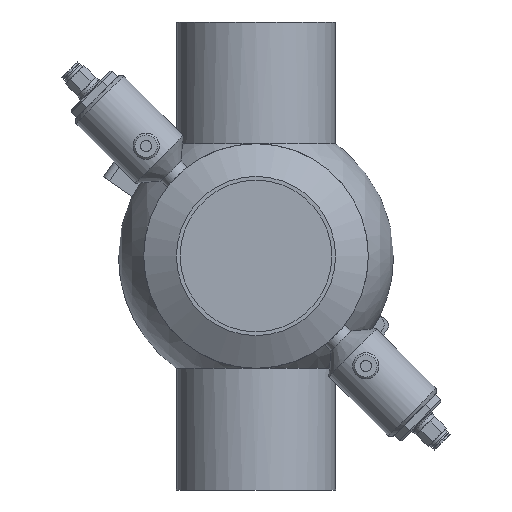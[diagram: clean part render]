
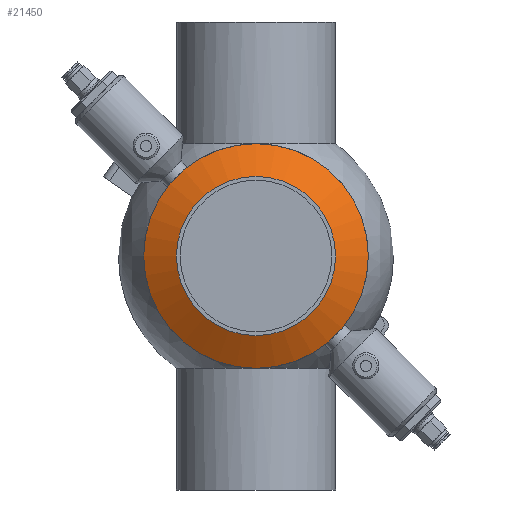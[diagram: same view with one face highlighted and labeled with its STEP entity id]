
A CAD part, front view. The second image highlights one B-rep face of the part: STEP entity #21450.
In plain terms, the highlighted conical face has half-angle 60 degrees and reference radius 60 mm.
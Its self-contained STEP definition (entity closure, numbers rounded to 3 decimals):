
#316 = CARTESIAN_POINT ( 'NONE',  ( 0., -68.5, 60. ) ) ;
#817 = VERTEX_POINT ( 'NONE', #11638 ) ;
#975 = DIRECTION ( 'NONE',  ( 0., 1., 0. ) ) ;
#1641 = AXIS2_PLACEMENT_3D ( 'NONE', #6869, #975, #15654 ) ;
#2183 = EDGE_CURVE ( 'NONE', #18367, #18367, #11994, .T. ) ;
#4289 = ORIENTED_EDGE ( 'NONE', *, *, #22114, .T. ) ;
#4783 = EDGE_LOOP ( 'NONE', ( #4289 ) ) ;
#5455 = DIRECTION ( 'NONE',  ( 0., 0., 1. ) ) ;
#5708 = FACE_BOUND ( 'NONE', #4783, .T. ) ;
#6414 = CARTESIAN_POINT ( 'NONE',  ( 0., -78.604, 0. ) ) ;
#6869 = CARTESIAN_POINT ( 'NONE',  ( 0., -68.5, 0. ) ) ;
#8410 = DIRECTION ( 'NONE',  ( 0., 0., 1. ) ) ;
#9771 = ORIENTED_EDGE ( 'NONE', *, *, #2183, .F. ) ;
#11202 = DIRECTION ( 'NONE',  ( 0., 1., 0. ) ) ;
#11638 = CARTESIAN_POINT ( 'NONE',  ( 0., -78.604, 42.5 ) ) ;
#11969 = EDGE_LOOP ( 'NONE', ( #9771 ) ) ;
#11994 = CIRCLE ( 'NONE', #1641, 60. ) ;
#12379 = CIRCLE ( 'NONE', #22789, 42.5 ) ;
#15654 = DIRECTION ( 'NONE',  ( 0., 0., 1. ) ) ;
#16748 = FACE_OUTER_BOUND ( 'NONE', #11969, .T. ) ;
#17472 = CONICAL_SURFACE ( 'NONE', #18252, 60., 1.047 ) ;
#18252 = AXIS2_PLACEMENT_3D ( 'NONE', #22203, #11202, #5455 ) ;
#18367 = VERTEX_POINT ( 'NONE', #316 ) ;
#19387 = DIRECTION ( 'NONE',  ( 0., 1., 0. ) ) ;
#21450 = ADVANCED_FACE ( 'NONE', ( #5708, #16748 ), #17472, .T. ) ;
#22114 = EDGE_CURVE ( 'NONE', #817, #817, #12379, .T. ) ;
#22203 = CARTESIAN_POINT ( 'NONE',  ( 0., -68.5, 0. ) ) ;
#22789 = AXIS2_PLACEMENT_3D ( 'NONE', #6414, #19387, #8410 ) ;
